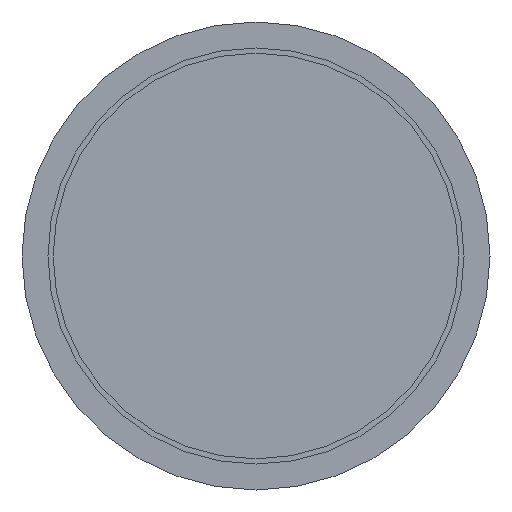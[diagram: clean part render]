
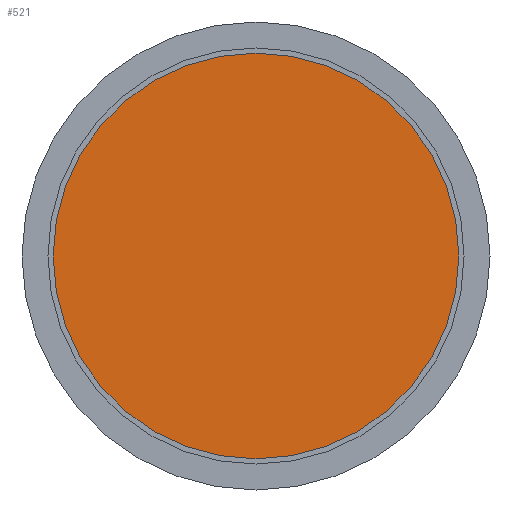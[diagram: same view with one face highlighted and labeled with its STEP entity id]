
A CAD part, front view. The second image highlights one B-rep face of the part: STEP entity #521.
In plain terms, the highlighted planar face has unit normal (0, -1, 0).
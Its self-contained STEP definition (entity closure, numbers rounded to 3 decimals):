
#28 = AXIS2_PLACEMENT_3D ( 'NONE', #546, #408, #309 ) ;
#33 = DIRECTION ( 'NONE',  ( 0., -1., 0. ) ) ;
#38 = VERTEX_POINT ( 'NONE', #67 ) ;
#67 = CARTESIAN_POINT ( 'NONE',  ( 0., 0., -195. ) ) ;
#133 = ORIENTED_EDGE ( 'NONE', *, *, #206, .T. ) ;
#175 = DIRECTION ( 'NONE',  ( 0., 0., -1. ) ) ;
#182 = CARTESIAN_POINT ( 'NONE',  ( 0., 0., 0. ) ) ;
#195 = EDGE_LOOP ( 'NONE', ( #230, #133 ) ) ;
#206 = EDGE_CURVE ( 'NONE', #495, #38, #409, .T. ) ;
#222 = CIRCLE ( 'NONE', #553, 195. ) ;
#230 = ORIENTED_EDGE ( 'NONE', *, *, #298, .T. ) ;
#287 = DIRECTION ( 'NONE',  ( 0., 1., 0. ) ) ;
#298 = EDGE_CURVE ( 'NONE', #38, #495, #222, .T. ) ;
#309 = DIRECTION ( 'NONE',  ( 0., 0., -1. ) ) ;
#393 = PLANE ( 'NONE',  #541 ) ;
#408 = DIRECTION ( 'NONE',  ( 0., -1., 0. ) ) ;
#409 = CIRCLE ( 'NONE', #28, 195. ) ;
#483 = CARTESIAN_POINT ( 'NONE',  ( 0., 0., 195. ) ) ;
#489 = DIRECTION ( 'NONE',  ( 0., 0., 1. ) ) ;
#495 = VERTEX_POINT ( 'NONE', #483 ) ;
#517 = FACE_OUTER_BOUND ( 'NONE', #195, .T. ) ;
#521 = ADVANCED_FACE ( 'NONE', ( #517 ), #393, .F. ) ;
#541 = AXIS2_PLACEMENT_3D ( 'NONE', #574, #287, #489 ) ;
#546 = CARTESIAN_POINT ( 'NONE',  ( 0., 0., 0. ) ) ;
#553 = AXIS2_PLACEMENT_3D ( 'NONE', #182, #33, #175 ) ;
#574 = CARTESIAN_POINT ( 'NONE',  ( 0., 0., 195. ) ) ;
